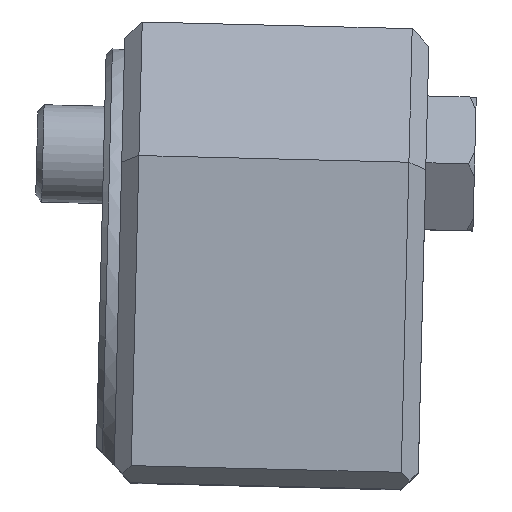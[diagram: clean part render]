
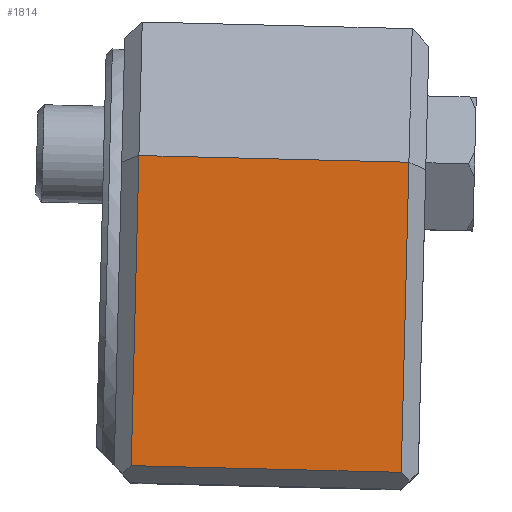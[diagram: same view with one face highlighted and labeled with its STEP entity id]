
A CAD part, top view. The second image highlights one B-rep face of the part: STEP entity #1814.
In plain terms, the highlighted planar face has unit normal (0, 0, 1).
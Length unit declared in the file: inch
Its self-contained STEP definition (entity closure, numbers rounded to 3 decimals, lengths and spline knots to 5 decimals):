
#121=LINE('',#2966,#228);
#126=LINE('',#2976,#233);
#128=LINE('',#2980,#235);
#129=LINE('',#2981,#236);
#228=VECTOR('',#2410,0.3937);
#233=VECTOR('',#2421,0.3937);
#235=VECTOR('',#2425,0.3937);
#236=VECTOR('',#2426,0.3937);
#367=FACE_OUTER_BOUND('',#481,.T.);
#481=EDGE_LOOP('',(#1338,#1339,#1340,#1341));
#761=VERTEX_POINT('',#2963);
#762=VERTEX_POINT('',#2965);
#764=VERTEX_POINT('',#2975);
#765=VERTEX_POINT('',#2979);
#969=EDGE_CURVE('',#761,#762,#121,.T.);
#974=EDGE_CURVE('',#762,#764,#126,.T.);
#976=EDGE_CURVE('',#765,#761,#128,.T.);
#977=EDGE_CURVE('',#764,#765,#129,.T.);
#1338=ORIENTED_EDGE('',*,*,#969,.F.);
#1339=ORIENTED_EDGE('',*,*,#976,.F.);
#1340=ORIENTED_EDGE('',*,*,#977,.F.);
#1341=ORIENTED_EDGE('',*,*,#974,.F.);
#1627=PLANE('',#2015);
#1814=ADVANCED_FACE('',(#367),#1627,.T.);
#2015=AXIS2_PLACEMENT_3D('',#2978,#2423,#2424);
#2410=DIRECTION('',(0.025,1.,0.));
#2421=DIRECTION('',(1.,-0.025,0.));
#2423=DIRECTION('center_axis',(0.,0.,
1.));
#2424=DIRECTION('ref_axis',(-0.025,-1.,0.));
#2425=DIRECTION('',(-1.,0.025,0.));
#2426=DIRECTION('',(-0.025,-1.,0.));
#2963=CARTESIAN_POINT('',(-0.92975,-1.14551,1.05691));
#2965=CARTESIAN_POINT('',(-0.90496,-0.14188,1.05691));
#2966=CARTESIAN_POINT('',(-0.90882,-0.29833,1.05691));
#2975=CARTESIAN_POINT('',(-0.03121,-0.16346,1.05691));
#2976=CARTESIAN_POINT('',(-0.96006,-0.14052,1.05691));
#2978=CARTESIAN_POINT('Origin',(-0.96006,-0.14052,1.05691));
#2979=CARTESIAN_POINT('',(-0.056,-1.16709,1.05691));
#2980=CARTESIAN_POINT('',(-0.98485,-1.14415,1.05691));
#2981=CARTESIAN_POINT('',(-0.03507,-0.31991,1.05691));
